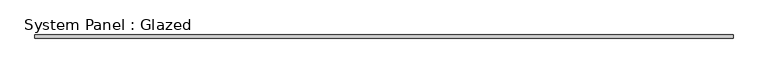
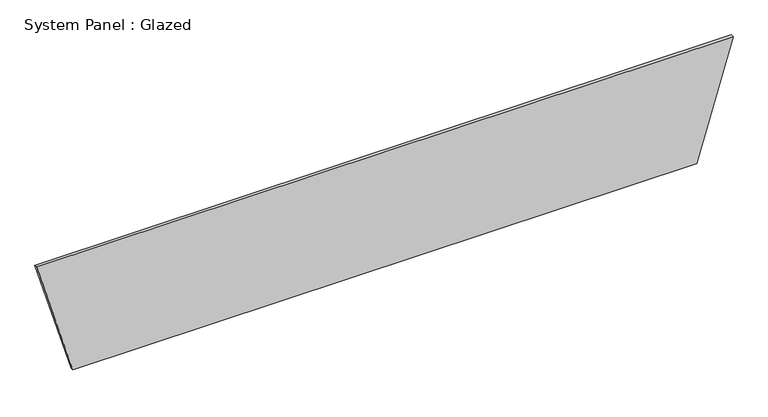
"""IFC4 building model written with IfcOpenShell, lengths in millimetres: plate geometry, System Panel : Glazed."""

from ifc_helpers import new_model, si_unit, frame, origin, place, context, project, spatial, polyline, outline, extrude, source, transform, mapped, element, save


def system_panel_glazed_ca78b364(model_context):
    return source(origin(), model_context, "Body", "SweptSolid", [
        extrude(outline(polyline([(0.0, -2499.7996142), (0.0, 2499.7996142), (974.525677, 2790.523954), (974.525677, -2790.523954), (0.0, -2499.7996142)])), frame((0.0, -49.5, 0.0), z_axis=(0.0, 1.0, 0.0), x_axis=(0.0, 0.0, 1.0)), (0.0, 0.0, 1.0), 25.0),
    ])


if __name__ == "__main__":
    model = new_model("IFC4")
    model_context = context("Model", 3, world=origin())
    ifc_project = project(units=[si_unit("LENGTHUNIT", "METRE", prefix="MILLI")], contexts=[model_context])
    site = spatial("IfcSite", under=ifc_project)
    building = spatial("IfcBuilding", under=site)
    placement = place(None, origin())
    system_panel_glazed_shape = system_panel_glazed_ca78b364(model_context)
    element("IfcPlate", 1, ObjectType="System Panel : Glazed", at=placement, inside=building, context=model_context, shape_type="MappedRepresentation", body=[
        mapped(system_panel_glazed_shape, transform((0.0, 0.0, 0.0), x_axis=(1.0, 0.0, 0.0), y_axis=(0.0, 1.0, 0.0), z_axis=(0.0, 0.0, 1.0))),
    ])
    save(model, "model.ifc")
